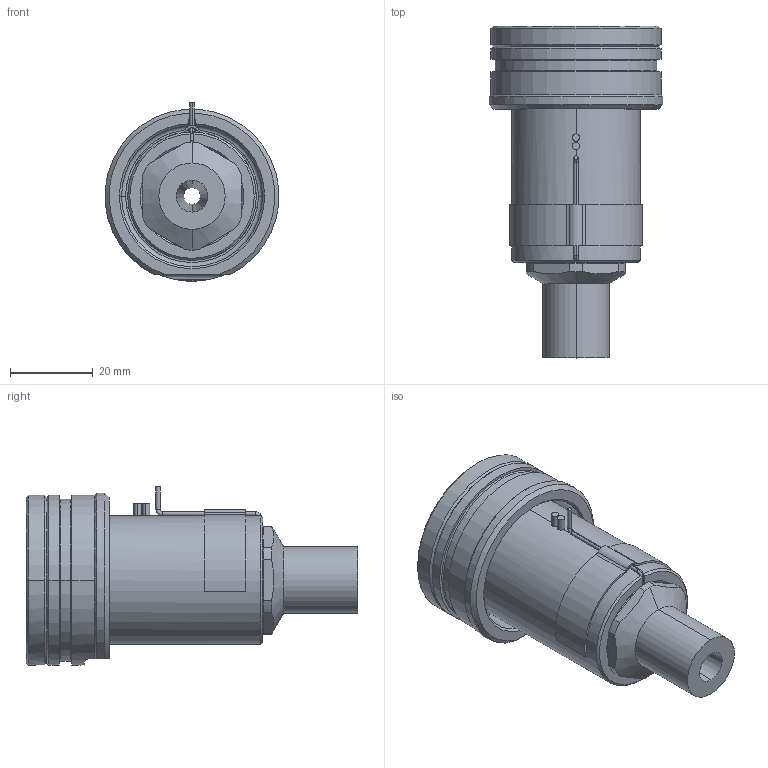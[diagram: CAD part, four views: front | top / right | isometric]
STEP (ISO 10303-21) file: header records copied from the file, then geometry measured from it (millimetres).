
FILE_DESCRIPTION((''),'2;1');
FILE_NAME('EO12_VG-ST_ESG_050_SW','2024-02-19T12:51:56',('sundharh'),(''),'CREO PARAMETRIC BY PTC INC, 2023154','CREO PARAMETRIC BY PTC INC, 2023154','');
FILE_SCHEMA(('CONFIG_CONTROL_DESIGN'));
Length unit declared in the file: millimetre
Products named in the file (1): EO12_VG-ST_ESG_050_SW
Bounding box: 41.85 x 80 x 43 mm (x, y, z)
Volume: 50773.5 mm3; surface area: 16657.8 mm2
Topology: 2 solids, 3 shells, 182 faces, 463 edges, 284 vertices
Faces by surface type: cylinder 65, plane 46, cone 37, torus 27, bspline 5, sphere 2
Entity records: 6222 total; most frequent: CARTESIAN_POINT 1715, DIRECTION 994, ORIENTED_EDGE 922, EDGE_CURVE 461, AXIS2_PLACEMENT_3D 415, VERTEX_POINT 284, CIRCLE 238, EDGE_LOOP 197
